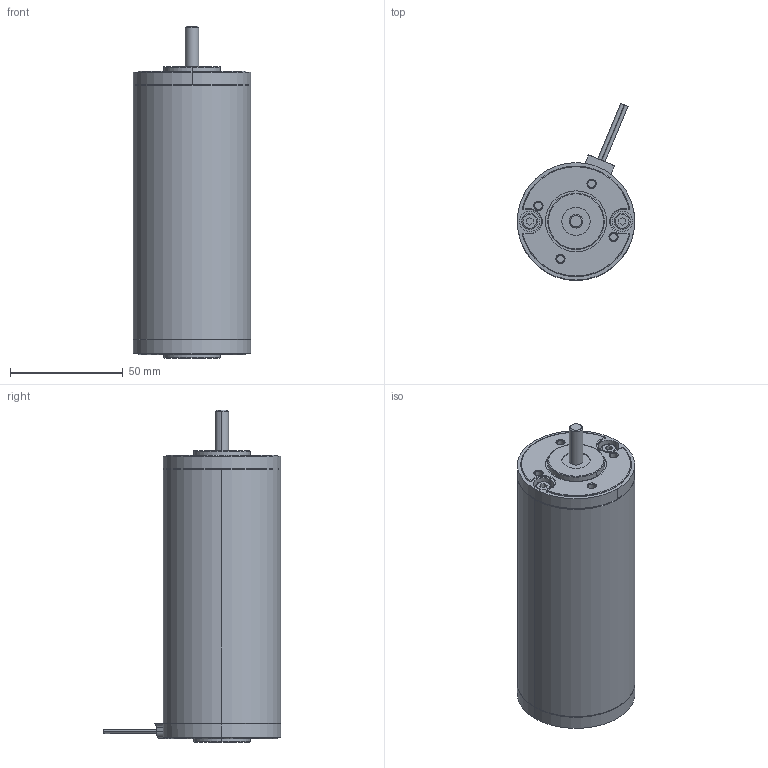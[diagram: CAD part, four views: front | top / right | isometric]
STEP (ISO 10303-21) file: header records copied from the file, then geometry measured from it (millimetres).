
FILE_DESCRIPTION (( 'STEP AP214' ), '1' );
FILE_NAME ('Pg 5260.STEP', '2009-12-08T14:04:37', ( 'hirschmeier' ), ( '' ), 'SwSTEP 2.0', 'SolidWorks 2008', '' );
FILE_SCHEMA (( 'AUTOMOTIVE_DESIGN' ));
Length unit declared in the file: millimetre
Products named in the file (1): Pg 5260
Bounding box: 52 x 78.41 x 147 mm (x, y, z)
Volume: 267918.2 mm3; surface area: 26882.6 mm2
Topology: 3 solids, 3 shells, 199 faces, 443 edges, 266 vertices
Faces by surface type: cylinder 86, plane 58, cone 24, torus 19, sphere 12
Entity records: 6039 total; most frequent: DIRECTION 1058, CARTESIAN_POINT 1014, ORIENTED_EDGE 870, EDGE_CURVE 435, AXIS2_PLACEMENT_3D 434, VERTEX_POINT 266, CIRCLE 234, EDGE_LOOP 223
